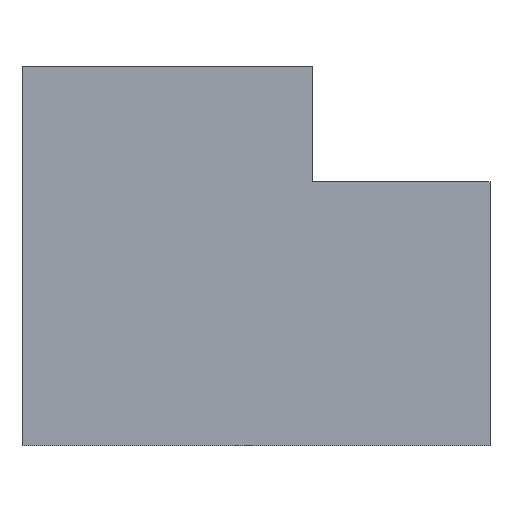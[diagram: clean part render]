
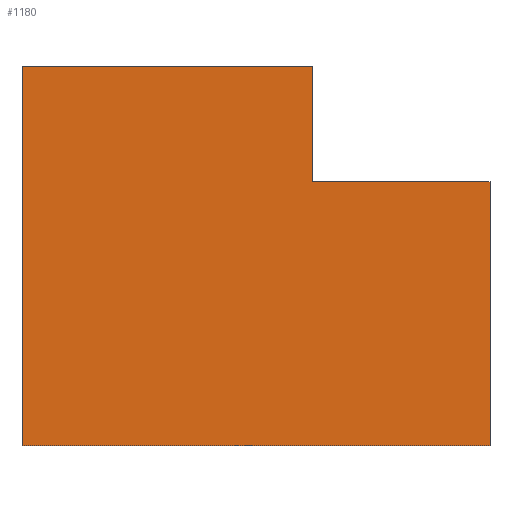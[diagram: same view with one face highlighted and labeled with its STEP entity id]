
A CAD part, front view. The second image highlights one B-rep face of the part: STEP entity #1180.
In plain terms, the highlighted planar face has unit normal (0, -1, 0).
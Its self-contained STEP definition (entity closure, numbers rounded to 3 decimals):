
#72 = PLANE('',#73);
#73 = AXIS2_PLACEMENT_3D('',#74,#75,#76);
#74 = CARTESIAN_POINT('',(0.,0.,0.));
#75 = DIRECTION('',(1.,0.,-0.));
#76 = DIRECTION('',(0.,0.,1.));
#128 = PLANE('',#129);
#129 = AXIS2_PLACEMENT_3D('',#130,#131,#132);
#130 = CARTESIAN_POINT('',(42.31,0.,0.));
#131 = DIRECTION('',(1.,0.,-0.));
#132 = DIRECTION('',(0.,0.,1.));
#318 = VERTEX_POINT('',#319);
#319 = CARTESIAN_POINT('',(0.,0.,34.351));
#335 = PLANE('',#336);
#336 = AXIS2_PLACEMENT_3D('',#337,#338,#339);
#337 = CARTESIAN_POINT('',(0.,0.,34.351));
#338 = DIRECTION('',(0.,0.,1.));
#339 = DIRECTION('',(1.,0.,-0.));
#347 = EDGE_CURVE('',#348,#318,#350,.T.);
#348 = VERTEX_POINT('',#349);
#349 = CARTESIAN_POINT('',(0.,0.,0.));
#350 = SURFACE_CURVE('',#351,(#355,#362),.PCURVE_S1.);
#351 = LINE('',#352,#353);
#352 = CARTESIAN_POINT('',(0.,0.,0.));
#353 = VECTOR('',#354,1.);
#354 = DIRECTION('',(0.,0.,1.));
#355 = PCURVE('',#72,#356);
#356 = DEFINITIONAL_REPRESENTATION('',(#357),#361);
#357 = LINE('',#358,#359);
#358 = CARTESIAN_POINT('',(0.,0.));
#359 = VECTOR('',#360,1.);
#360 = DIRECTION('',(1.,0.));
#361 = ( GEOMETRIC_REPRESENTATION_CONTEXT(2) 
PARAMETRIC_REPRESENTATION_CONTEXT() REPRESENTATION_CONTEXT('2D SPACE',''
  ) );
#362 = PCURVE('',#363,#368);
#363 = PLANE('',#364);
#364 = AXIS2_PLACEMENT_3D('',#365,#366,#367);
#365 = CARTESIAN_POINT('',(0.,0.,0.));
#366 = DIRECTION('',(-0.,1.,0.));
#367 = DIRECTION('',(0.,0.,1.));
#368 = DEFINITIONAL_REPRESENTATION('',(#369),#373);
#369 = LINE('',#370,#371);
#370 = CARTESIAN_POINT('',(0.,0.));
#371 = VECTOR('',#372,1.);
#372 = DIRECTION('',(1.,0.));
#373 = ( GEOMETRIC_REPRESENTATION_CONTEXT(2) 
PARAMETRIC_REPRESENTATION_CONTEXT() REPRESENTATION_CONTEXT('2D SPACE',''
  ) );
#391 = PLANE('',#392);
#392 = AXIS2_PLACEMENT_3D('',#393,#394,#395);
#393 = CARTESIAN_POINT('',(0.,0.,0.));
#394 = DIRECTION('',(0.,0.,1.));
#395 = DIRECTION('',(1.,0.,-0.));
#745 = EDGE_CURVE('',#746,#748,#750,.T.);
#746 = VERTEX_POINT('',#747);
#747 = CARTESIAN_POINT('',(42.31,0.,0.));
#748 = VERTEX_POINT('',#749);
#749 = CARTESIAN_POINT('',(42.31,0.,23.88));
#750 = SURFACE_CURVE('',#751,(#755,#762),.PCURVE_S1.);
#751 = LINE('',#752,#753);
#752 = CARTESIAN_POINT('',(42.31,0.,0.));
#753 = VECTOR('',#754,1.);
#754 = DIRECTION('',(0.,0.,1.));
#755 = PCURVE('',#128,#756);
#756 = DEFINITIONAL_REPRESENTATION('',(#757),#761);
#757 = LINE('',#758,#759);
#758 = CARTESIAN_POINT('',(0.,0.));
#759 = VECTOR('',#760,1.);
#760 = DIRECTION('',(1.,0.));
#761 = ( GEOMETRIC_REPRESENTATION_CONTEXT(2) 
PARAMETRIC_REPRESENTATION_CONTEXT() REPRESENTATION_CONTEXT('2D SPACE',''
  ) );
#762 = PCURVE('',#363,#763);
#763 = DEFINITIONAL_REPRESENTATION('',(#764),#768);
#764 = LINE('',#765,#766);
#765 = CARTESIAN_POINT('',(0.,42.31));
#766 = VECTOR('',#767,1.);
#767 = DIRECTION('',(1.,0.));
#768 = ( GEOMETRIC_REPRESENTATION_CONTEXT(2) 
PARAMETRIC_REPRESENTATION_CONTEXT() REPRESENTATION_CONTEXT('2D SPACE',''
  ) );
#881 = PLANE('',#882);
#882 = AXIS2_PLACEMENT_3D('',#883,#884,#885);
#883 = CARTESIAN_POINT('',(34.301,19.836,
    23.88));
#884 = DIRECTION('',(0.,0.,1.));
#885 = DIRECTION('',(1.,0.,-0.));
#1007 = EDGE_CURVE('',#318,#1008,#1010,.T.);
#1008 = VERTEX_POINT('',#1009);
#1009 = CARTESIAN_POINT('',(26.291,0.,34.351));
#1010 = SURFACE_CURVE('',#1011,(#1015,#1022),.PCURVE_S1.);
#1011 = LINE('',#1012,#1013);
#1012 = CARTESIAN_POINT('',(0.,0.,34.351));
#1013 = VECTOR('',#1014,1.);
#1014 = DIRECTION('',(1.,0.,-0.));
#1015 = PCURVE('',#335,#1016);
#1016 = DEFINITIONAL_REPRESENTATION('',(#1017),#1021);
#1017 = LINE('',#1018,#1019);
#1018 = CARTESIAN_POINT('',(0.,0.));
#1019 = VECTOR('',#1020,1.);
#1020 = DIRECTION('',(1.,0.));
#1021 = ( GEOMETRIC_REPRESENTATION_CONTEXT(2) 
PARAMETRIC_REPRESENTATION_CONTEXT() REPRESENTATION_CONTEXT('2D SPACE',''
  ) );
#1022 = PCURVE('',#363,#1023);
#1023 = DEFINITIONAL_REPRESENTATION('',(#1024),#1028);
#1024 = LINE('',#1025,#1026);
#1025 = CARTESIAN_POINT('',(34.351,0.));
#1026 = VECTOR('',#1027,1.);
#1027 = DIRECTION('',(0.,1.));
#1028 = ( GEOMETRIC_REPRESENTATION_CONTEXT(2) 
PARAMETRIC_REPRESENTATION_CONTEXT() REPRESENTATION_CONTEXT('2D SPACE',''
  ) );
#1044 = PLANE('',#1045);
#1045 = AXIS2_PLACEMENT_3D('',#1046,#1047,#1048);
#1046 = CARTESIAN_POINT('',(26.291,39.672,
    34.351));
#1047 = DIRECTION('',(-1.,0.,0.));
#1048 = DIRECTION('',(0.,-1.,0.));
#1180 = ADVANCED_FACE('f009',(#1181),#363,.F.);
#1181 = FACE_BOUND('',#1182,.F.);
#1182 = EDGE_LOOP('',(#1183,#1184,#1205,#1206,#1207,#1230));
#1183 = ORIENTED_EDGE('',*,*,#745,.F.);
#1184 = ORIENTED_EDGE('',*,*,#1185,.F.);
#1185 = EDGE_CURVE('',#348,#746,#1186,.T.);
#1186 = SURFACE_CURVE('',#1187,(#1191,#1198),.PCURVE_S1.);
#1187 = LINE('',#1188,#1189);
#1188 = CARTESIAN_POINT('',(0.,0.,0.));
#1189 = VECTOR('',#1190,1.);
#1190 = DIRECTION('',(1.,0.,-0.));
#1191 = PCURVE('',#363,#1192);
#1192 = DEFINITIONAL_REPRESENTATION('',(#1193),#1197);
#1193 = LINE('',#1194,#1195);
#1194 = CARTESIAN_POINT('',(0.,0.));
#1195 = VECTOR('',#1196,1.);
#1196 = DIRECTION('',(0.,1.));
#1197 = ( GEOMETRIC_REPRESENTATION_CONTEXT(2) 
PARAMETRIC_REPRESENTATION_CONTEXT() REPRESENTATION_CONTEXT('2D SPACE',''
  ) );
#1198 = PCURVE('',#391,#1199);
#1199 = DEFINITIONAL_REPRESENTATION('',(#1200),#1204);
#1200 = LINE('',#1201,#1202);
#1201 = CARTESIAN_POINT('',(0.,0.));
#1202 = VECTOR('',#1203,1.);
#1203 = DIRECTION('',(1.,0.));
#1204 = ( GEOMETRIC_REPRESENTATION_CONTEXT(2) 
PARAMETRIC_REPRESENTATION_CONTEXT() REPRESENTATION_CONTEXT('2D SPACE',''
  ) );
#1205 = ORIENTED_EDGE('',*,*,#347,.T.);
#1206 = ORIENTED_EDGE('',*,*,#1007,.T.);
#1207 = ORIENTED_EDGE('',*,*,#1208,.T.);
#1208 = EDGE_CURVE('',#1008,#1209,#1211,.T.);
#1209 = VERTEX_POINT('',#1210);
#1210 = CARTESIAN_POINT('',(26.291,0.,23.88));
#1211 = SURFACE_CURVE('',#1212,(#1216,#1223),.PCURVE_S1.);
#1212 = LINE('',#1213,#1214);
#1213 = CARTESIAN_POINT('',(26.291,0.,34.351));
#1214 = VECTOR('',#1215,1.);
#1215 = DIRECTION('',(-0.,-0.,-1.));
#1216 = PCURVE('',#363,#1217);
#1217 = DEFINITIONAL_REPRESENTATION('',(#1218),#1222);
#1218 = LINE('',#1219,#1220);
#1219 = CARTESIAN_POINT('',(34.351,26.291));
#1220 = VECTOR('',#1221,1.);
#1221 = DIRECTION('',(-1.,0.));
#1222 = ( GEOMETRIC_REPRESENTATION_CONTEXT(2) 
PARAMETRIC_REPRESENTATION_CONTEXT() REPRESENTATION_CONTEXT('2D SPACE',''
  ) );
#1223 = PCURVE('',#1044,#1224);
#1224 = DEFINITIONAL_REPRESENTATION('',(#1225),#1229);
#1225 = LINE('',#1226,#1227);
#1226 = CARTESIAN_POINT('',(39.672,0.));
#1227 = VECTOR('',#1228,1.);
#1228 = DIRECTION('',(0.,-1.));
#1229 = ( GEOMETRIC_REPRESENTATION_CONTEXT(2) 
PARAMETRIC_REPRESENTATION_CONTEXT() REPRESENTATION_CONTEXT('2D SPACE',''
  ) );
#1230 = ORIENTED_EDGE('',*,*,#1231,.T.);
#1231 = EDGE_CURVE('',#1209,#748,#1232,.T.);
#1232 = SURFACE_CURVE('',#1233,(#1237,#1244),.PCURVE_S1.);
#1233 = LINE('',#1234,#1235);
#1234 = CARTESIAN_POINT('',(26.291,0.,23.88));
#1235 = VECTOR('',#1236,1.);
#1236 = DIRECTION('',(1.,0.,0.));
#1237 = PCURVE('',#363,#1238);
#1238 = DEFINITIONAL_REPRESENTATION('',(#1239),#1243);
#1239 = LINE('',#1240,#1241);
#1240 = CARTESIAN_POINT('',(23.88,26.291));
#1241 = VECTOR('',#1242,1.);
#1242 = DIRECTION('',(0.,1.));
#1243 = ( GEOMETRIC_REPRESENTATION_CONTEXT(2) 
PARAMETRIC_REPRESENTATION_CONTEXT() REPRESENTATION_CONTEXT('2D SPACE',''
  ) );
#1244 = PCURVE('',#881,#1245);
#1245 = DEFINITIONAL_REPRESENTATION('',(#1246),#1250);
#1246 = LINE('',#1247,#1248);
#1247 = CARTESIAN_POINT('',(-8.01,-19.836));
#1248 = VECTOR('',#1249,1.);
#1249 = DIRECTION('',(1.,0.));
#1250 = ( GEOMETRIC_REPRESENTATION_CONTEXT(2) 
PARAMETRIC_REPRESENTATION_CONTEXT() REPRESENTATION_CONTEXT('2D SPACE',''
  ) );
